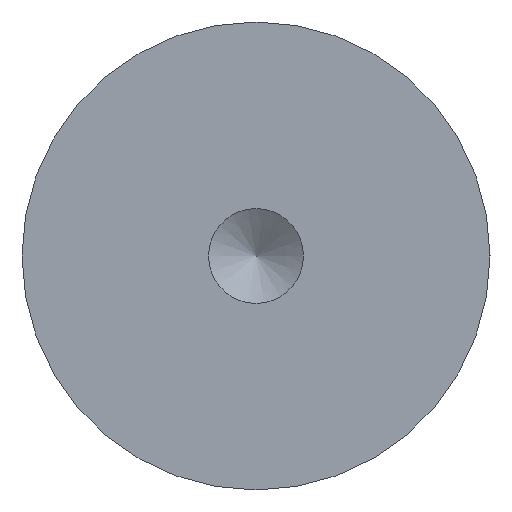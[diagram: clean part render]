
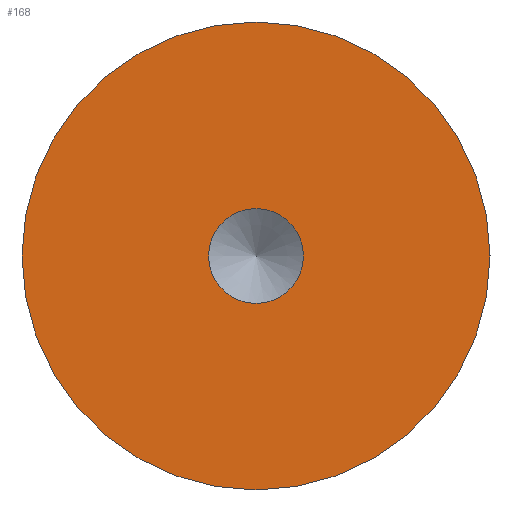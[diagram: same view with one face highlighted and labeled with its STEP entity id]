
A CAD part, front view. The second image highlights one B-rep face of the part: STEP entity #168.
In plain terms, the highlighted planar face has unit normal (0, -1, 0).
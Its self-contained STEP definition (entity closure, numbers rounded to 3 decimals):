
#18=PLANE('',#187);
#24=FACE_BOUND('',#62,.T.);
#45=FACE_OUTER_BOUND('',#61,.T.);
#61=EDGE_LOOP('',(#136));
#62=EDGE_LOOP('',(#137));
#87=CIRCLE('',#186,1.621);
#88=CIRCLE('',#188,8.);
#102=VERTEX_POINT('',#277);
#103=VERTEX_POINT('',#280);
#118=EDGE_CURVE('',#102,#102,#87,.T.);
#119=EDGE_CURVE('',#103,#103,#88,.T.);
#136=ORIENTED_EDGE('',*,*,#119,.F.);
#137=ORIENTED_EDGE('',*,*,#118,.T.);
#168=ADVANCED_FACE('',(#45,#24),#18,.T.);
#186=AXIS2_PLACEMENT_3D('',#278,#220,#221);
#187=AXIS2_PLACEMENT_3D('',#279,#222,#223);
#188=AXIS2_PLACEMENT_3D('',#281,#224,#225);
#220=DIRECTION('center_axis',(0.,1.,0.));
#221=DIRECTION('ref_axis',(1.,0.,0.));
#222=DIRECTION('center_axis',(0.,-1.,0.));
#223=DIRECTION('ref_axis',(0.,0.,-1.));
#224=DIRECTION('center_axis',(0.,1.,0.));
#225=DIRECTION('ref_axis',(-1.,0.,0.));
#277=CARTESIAN_POINT('',(1.621,0.,0.));
#278=CARTESIAN_POINT('Origin',(0.,0.,
0.));
#279=CARTESIAN_POINT('Origin',(-4.,0.,0.));
#280=CARTESIAN_POINT('',(-8.,0.,0.));
#281=CARTESIAN_POINT('Origin',(0.,0.,
0.));
